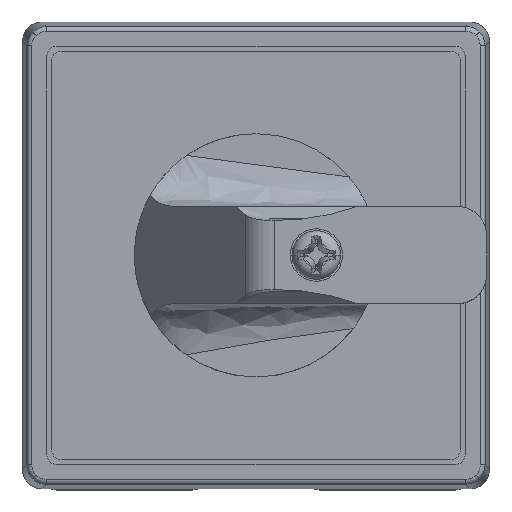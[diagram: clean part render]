
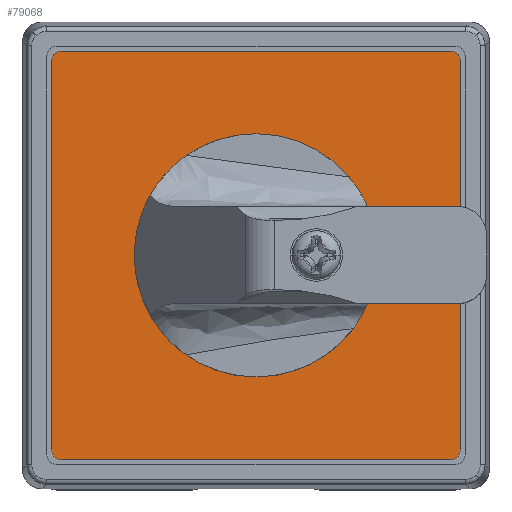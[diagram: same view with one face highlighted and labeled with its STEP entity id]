
A CAD part, top view. The second image highlights one B-rep face of the part: STEP entity #79068.
In plain terms, the highlighted planar face has unit normal (0, 0, 1).
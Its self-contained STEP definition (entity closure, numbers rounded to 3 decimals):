
#395 = CARTESIAN_POINT ( 'NONE',  ( 27.361, -25.111, -86.982 ) ) ;
#11946 = DIRECTION ( 'NONE',  ( -1., 0., 0. ) ) ;
#14139 = CIRCLE ( 'NONE', #231741, 10.35 ) ;
#14792 = DIRECTION ( 'NONE',  ( 1., 0., 0. ) ) ;
#16367 = CARTESIAN_POINT ( 'NONE',  ( 26.361, 14.889, -86.982 ) ) ;
#16695 = DIRECTION ( 'NONE',  ( 0., 0., 1. ) ) ;
#17153 = CARTESIAN_POINT ( 'NONE',  ( -3.989, -5.111, -86.982 ) ) ;
#24915 = CARTESIAN_POINT ( 'NONE',  ( -14.639, 14.889, -86.982 ) ) ;
#24930 = CARTESIAN_POINT ( 'NONE',  ( 26.361, 15.889, -86.982 ) ) ;
#24975 = AXIS2_PLACEMENT_3D ( 'NONE', #155520, #100722, #44380 ) ;
#35735 = LINE ( 'NONE', #198507, #168408 ) ;
#44380 = DIRECTION ( 'NONE',  ( -1., 0., 0. ) ) ;
#45353 = ORIENTED_EDGE ( 'NONE', *, *, #216127, .F. ) ;
#48859 = EDGE_CURVE ( 'NONE', #91536, #116220, #126193, .T. ) ;
#54821 = EDGE_CURVE ( 'NONE', #131093, #91536, #203116, .T. ) ;
#58121 = AXIS2_PLACEMENT_3D ( 'NONE', #126289, #146403, #70760 ) ;
#62379 = ORIENTED_EDGE ( 'NONE', *, *, #233241, .F. ) ;
#70760 = DIRECTION ( 'NONE',  ( -1., 0., 0. ) ) ;
#70770 = AXIS2_PLACEMENT_3D ( 'NONE', #225538, #115031, #172993 ) ;
#71721 = CARTESIAN_POINT ( 'NONE',  ( 6.361, -5.111, -86.982 ) ) ;
#79068 = ADVANCED_FACE ( 'NONE', ( #156377, #92976 ), #219743, .T. ) ;
#82287 = EDGE_CURVE ( 'NONE', #121898, #131093, #191995, .T. ) ;
#82685 = VERTEX_POINT ( 'NONE', #229018 ) ;
#85049 = DIRECTION ( 'NONE',  ( 0., -1., 0. ) ) ;
#86448 = CARTESIAN_POINT ( 'NONE',  ( 16.711, -5.111, -86.982 ) ) ;
#86466 = EDGE_CURVE ( 'NONE', #116220, #129261, #142275, .T. ) ;
#87650 = ORIENTED_EDGE ( 'NONE', *, *, #48859, .T. ) ;
#91536 = VERTEX_POINT ( 'NONE', #152326 ) ;
#92976 = FACE_BOUND ( 'NONE', #152332, .T. ) ;
#96784 = EDGE_CURVE ( 'NONE', #82685, #231802, #191287, .T. ) ;
#100722 = DIRECTION ( 'NONE',  ( 0., 0., 1. ) ) ;
#110806 = DIRECTION ( 'NONE',  ( 1., 0., 0. ) ) ;
#115031 = DIRECTION ( 'NONE',  ( 0., 0., 1. ) ) ;
#116220 = VERTEX_POINT ( 'NONE', #24915 ) ;
#119179 = AXIS2_PLACEMENT_3D ( 'NONE', #16367, #125059, #14792 ) ;
#119768 = VERTEX_POINT ( 'NONE', #17153 ) ;
#121898 = VERTEX_POINT ( 'NONE', #186599 ) ;
#125059 = DIRECTION ( 'NONE',  ( 0., 0., 1. ) ) ;
#126193 = CIRCLE ( 'NONE', #24975, 1. ) ;
#126289 = CARTESIAN_POINT ( 'NONE',  ( 26.361, -25.111, -86.982 ) ) ;
#128143 = ORIENTED_EDGE ( 'NONE', *, *, #204679, .T. ) ;
#128501 = CARTESIAN_POINT ( 'NONE',  ( 26.361, 14.889, -86.982 ) ) ;
#129261 = VERTEX_POINT ( 'NONE', #154523 ) ;
#131093 = VERTEX_POINT ( 'NONE', #24930 ) ;
#133470 = CARTESIAN_POINT ( 'NONE',  ( 6.361, -5.111, -86.982 ) ) ;
#136620 = LINE ( 'NONE', #144644, #165491 ) ;
#138588 = ORIENTED_EDGE ( 'NONE', *, *, #86466, .T. ) ;
#140603 = VERTEX_POINT ( 'NONE', #86448 ) ;
#142275 = LINE ( 'NONE', #157637, #208802 ) ;
#144644 = CARTESIAN_POINT ( 'NONE',  ( -13.639, -26.111, -86.982 ) ) ;
#146403 = DIRECTION ( 'NONE',  ( 0., 0., 1. ) ) ;
#146573 = ORIENTED_EDGE ( 'NONE', *, *, #96784, .T. ) ;
#151145 = AXIS2_PLACEMENT_3D ( 'NONE', #71721, #234638, #180463 ) ;
#152326 = CARTESIAN_POINT ( 'NONE',  ( -13.639, 15.889, -86.982 ) ) ;
#152332 = EDGE_LOOP ( 'NONE', ( #62379, #45353 ) ) ;
#152539 = CIRCLE ( 'NONE', #70770, 1. ) ;
#153643 = ORIENTED_EDGE ( 'NONE', *, *, #226778, .T. ) ;
#153999 = VECTOR ( 'NONE', #11946, 1000. ) ;
#154523 = CARTESIAN_POINT ( 'NONE',  ( -14.639, -25.111, -86.982 ) ) ;
#155520 = CARTESIAN_POINT ( 'NONE',  ( -13.639, 14.889, -86.982 ) ) ;
#156377 = FACE_OUTER_BOUND ( 'NONE', #206710, .T. ) ;
#157637 = CARTESIAN_POINT ( 'NONE',  ( -14.639, 14.889, -86.982 ) ) ;
#157699 = CARTESIAN_POINT ( 'NONE',  ( -13.639, 15.889, -86.982 ) ) ;
#165491 = VECTOR ( 'NONE', #110806, 1000. ) ;
#168408 = VECTOR ( 'NONE', #234050, 1000. ) ;
#168713 = ORIENTED_EDGE ( 'NONE', *, *, #220686, .T. ) ;
#172993 = DIRECTION ( 'NONE',  ( -1., 0., 0. ) ) ;
#175724 = CARTESIAN_POINT ( 'NONE',  ( -13.639, -26.111, -86.982 ) ) ;
#180463 = DIRECTION ( 'NONE',  ( 1., 0., 0. ) ) ;
#186599 = CARTESIAN_POINT ( 'NONE',  ( 27.361, 14.889, -86.982 ) ) ;
#188278 = DIRECTION ( 'NONE',  ( 1., 0., 0. ) ) ;
#191287 = CIRCLE ( 'NONE', #58121, 1. ) ;
#191995 = CIRCLE ( 'NONE', #119179, 1. ) ;
#198507 = CARTESIAN_POINT ( 'NONE',  ( 27.361, 14.889, -86.982 ) ) ;
#198707 = AXIS2_PLACEMENT_3D ( 'NONE', #128501, #16695, #204372 ) ;
#198737 = VERTEX_POINT ( 'NONE', #175724 ) ;
#203116 = LINE ( 'NONE', #157699, #153999 ) ;
#204372 = DIRECTION ( 'NONE',  ( 1., 0., 0. ) ) ;
#204679 = EDGE_CURVE ( 'NONE', #198737, #82685, #136620, .T. ) ;
#206710 = EDGE_LOOP ( 'NONE', ( #209137, #234496, #87650, #138588, #168713, #128143, #146573, #153643 ) ) ;
#206962 = DIRECTION ( 'NONE',  ( 0., 0., 1. ) ) ;
#208802 = VECTOR ( 'NONE', #85049, 1000. ) ;
#209137 = ORIENTED_EDGE ( 'NONE', *, *, #82287, .T. ) ;
#216127 = EDGE_CURVE ( 'NONE', #140603, #119768, #222276, .T. ) ;
#219743 = PLANE ( 'NONE',  #198707 ) ;
#220686 = EDGE_CURVE ( 'NONE', #129261, #198737, #152539, .T. ) ;
#222276 = CIRCLE ( 'NONE', #151145, 10.35 ) ;
#225538 = CARTESIAN_POINT ( 'NONE',  ( -13.639, -25.111, -86.982 ) ) ;
#226778 = EDGE_CURVE ( 'NONE', #231802, #121898, #35735, .T. ) ;
#229018 = CARTESIAN_POINT ( 'NONE',  ( 26.361, -26.111, -86.982 ) ) ;
#231741 = AXIS2_PLACEMENT_3D ( 'NONE', #133470, #206962, #188278 ) ;
#231802 = VERTEX_POINT ( 'NONE', #395 ) ;
#233241 = EDGE_CURVE ( 'NONE', #119768, #140603, #14139, .T. ) ;
#234050 = DIRECTION ( 'NONE',  ( 0., 1., 0. ) ) ;
#234496 = ORIENTED_EDGE ( 'NONE', *, *, #54821, .T. ) ;
#234638 = DIRECTION ( 'NONE',  ( 0., 0., 1. ) ) ;
